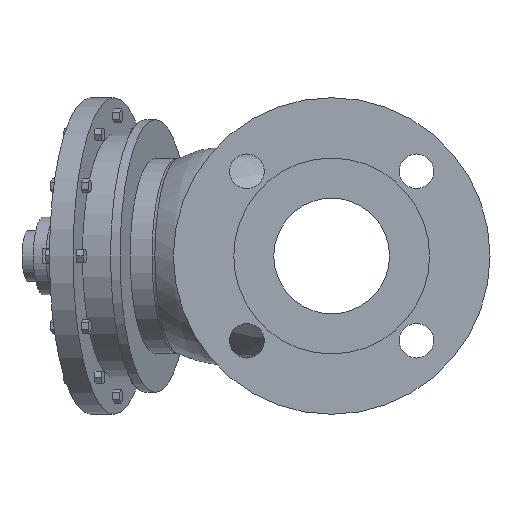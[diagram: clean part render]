
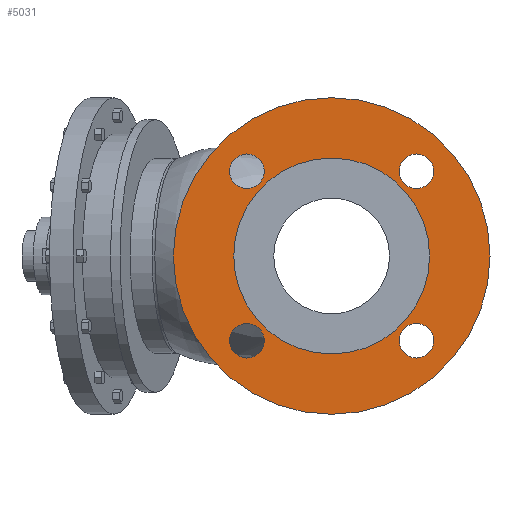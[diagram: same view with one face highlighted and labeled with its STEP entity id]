
A CAD part, left-side view. The second image highlights one B-rep face of the part: STEP entity #5031.
In plain terms, the highlighted planar face has unit normal (-1, 0, 0).
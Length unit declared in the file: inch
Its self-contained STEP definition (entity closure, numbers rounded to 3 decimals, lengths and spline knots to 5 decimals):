
#254=PLANE('',#5386);
#520=FACE_OUTER_BOUND('',#982,.T.);
#528=CIRCLE('',#5061,0.355);
#530=CIRCLE('',#5064,0.355);
#532=CIRCLE('',#5067,0.355);
#534=CIRCLE('',#5070,0.355);
#614=CIRCLE('',#5384,2.01);
#615=CIRCLE('',#5385,2.01);
#616=CIRCLE('',#5387,3.25);
#617=CIRCLE('',#5388,3.25);
#671=FACE_BOUND('',#983,.T.);
#672=FACE_BOUND('',#984,.T.);
#673=FACE_BOUND('',#985,.T.);
#674=FACE_BOUND('',#986,.T.);
#675=FACE_BOUND('',#987,.T.);
#982=EDGE_LOOP('',(#4440,#4441));
#983=EDGE_LOOP('',(#4442));
#984=EDGE_LOOP('',(#4443));
#985=EDGE_LOOP('',(#4444));
#986=EDGE_LOOP('',(#4445));
#987=EDGE_LOOP('',(#4446,#4447));
#2081=VERTEX_POINT('',#6672);
#2083=VERTEX_POINT('',#6678);
#2085=VERTEX_POINT('',#6684);
#2087=VERTEX_POINT('',#6690);
#2512=VERTEX_POINT('',#9113);
#2513=VERTEX_POINT('',#9114);
#2514=VERTEX_POINT('',#9119);
#2515=VERTEX_POINT('',#9120);
#2528=EDGE_CURVE('',#2081,#2081,#528,.T.);
#2531=EDGE_CURVE('',#2083,#2083,#530,.T.);
#2534=EDGE_CURVE('',#2085,#2085,#532,.T.);
#2537=EDGE_CURVE('',#2087,#2087,#534,.T.);
#3164=EDGE_CURVE('',#2512,#2513,#614,.T.);
#3165=EDGE_CURVE('',#2513,#2512,#615,.T.);
#3167=EDGE_CURVE('',#2514,#2515,#616,.T.);
#3168=EDGE_CURVE('',#2515,#2514,#617,.T.);
#4440=ORIENTED_EDGE('',*,*,#3167,.F.);
#4441=ORIENTED_EDGE('',*,*,#3168,.F.);
#4442=ORIENTED_EDGE('',*,*,#2528,.T.);
#4443=ORIENTED_EDGE('',*,*,#2531,.T.);
#4444=ORIENTED_EDGE('',*,*,#2534,.T.);
#4445=ORIENTED_EDGE('',*,*,#2537,.T.);
#4446=ORIENTED_EDGE('',*,*,#3164,.T.);
#4447=ORIENTED_EDGE('',*,*,#3165,.T.);
#5031=ADVANCED_FACE('',(#520,#671,#672,#673,#674,#675),#254,.T.);
#5061=AXIS2_PLACEMENT_3D('',#6673,#5426,#5427);
#5064=AXIS2_PLACEMENT_3D('',#6679,#5433,#5434);
#5067=AXIS2_PLACEMENT_3D('',#6685,#5440,#5441);
#5070=AXIS2_PLACEMENT_3D('',#6691,#5447,#5448);
#5384=AXIS2_PLACEMENT_3D('',#9115,#6582,#6583);
#5385=AXIS2_PLACEMENT_3D('',#9116,#6584,#6585);
#5386=AXIS2_PLACEMENT_3D('',#9118,#6587,#6588);
#5387=AXIS2_PLACEMENT_3D('',#9121,#6589,#6590);
#5388=AXIS2_PLACEMENT_3D('',#9122,#6591,#6592);
#5426=DIRECTION('center_axis',(1.,0.,0.));
#5427=DIRECTION('ref_axis',(0.,1.,0.));
#5433=DIRECTION('center_axis',(1.,0.,0.));
#5434=DIRECTION('ref_axis',(0.,0.,-1.));
#5440=DIRECTION('center_axis',(1.,0.,0.));
#5441=DIRECTION('ref_axis',(0.,-1.,0.));
#5447=DIRECTION('center_axis',(1.,0.,0.));
#5448=DIRECTION('ref_axis',(0.,0.,1.));
#6582=DIRECTION('center_axis',(1.,0.,0.));
#6583=DIRECTION('ref_axis',(0.,0.,-1.));
#6584=DIRECTION('center_axis',(1.,0.,0.));
#6585=DIRECTION('ref_axis',(0.,0.,-1.));
#6587=DIRECTION('center_axis',(-1.,0.,0.));
#6588=DIRECTION('ref_axis',(0.,0.,1.));
#6589=DIRECTION('center_axis',(1.,0.,0.));
#6590=DIRECTION('ref_axis',(0.,0.,-1.));
#6591=DIRECTION('center_axis',(1.,0.,0.));
#6592=DIRECTION('ref_axis',(0.,0.,-1.));
#6672=CARTESIAN_POINT('',(-4.055,-2.09448,-1.73948));
#6673=CARTESIAN_POINT('Origin',(-4.055,-1.73948,-1.73948));
#6678=CARTESIAN_POINT('',(-4.055,-1.73948,2.09448));
#6679=CARTESIAN_POINT('Origin',(-4.055,-1.73948,1.73948));
#6684=CARTESIAN_POINT('',(-4.055,2.09448,1.73948));
#6685=CARTESIAN_POINT('Origin',(-4.055,1.73948,1.73948));
#6690=CARTESIAN_POINT('',(-4.055,1.73948,-2.09448));
#6691=CARTESIAN_POINT('Origin',(-4.055,1.73948,-1.73948));
#9113=CARTESIAN_POINT('',(-4.055,2.01,0.));
#9114=CARTESIAN_POINT('',(-4.055,-2.01,0.));
#9115=CARTESIAN_POINT('Origin',(-4.055,0.,0.));
#9116=CARTESIAN_POINT('Origin',(-4.055,0.,0.));
#9118=CARTESIAN_POINT('Origin',(-4.055,3.25,0.));
#9119=CARTESIAN_POINT('',(-4.055,3.25,0.));
#9120=CARTESIAN_POINT('',(-4.055,-3.25,0.));
#9121=CARTESIAN_POINT('Origin',(-4.055,0.,0.));
#9122=CARTESIAN_POINT('Origin',(-4.055,0.,0.));
